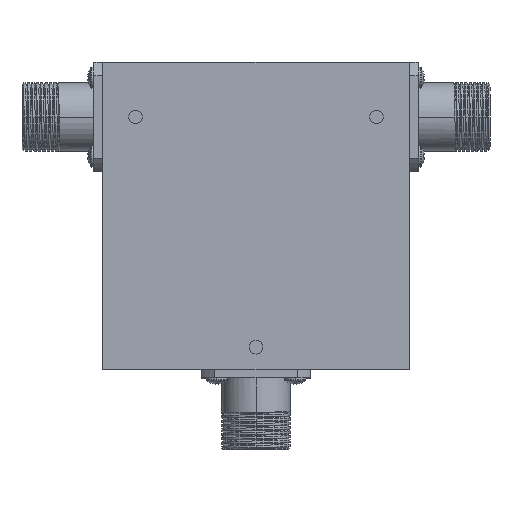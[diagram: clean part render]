
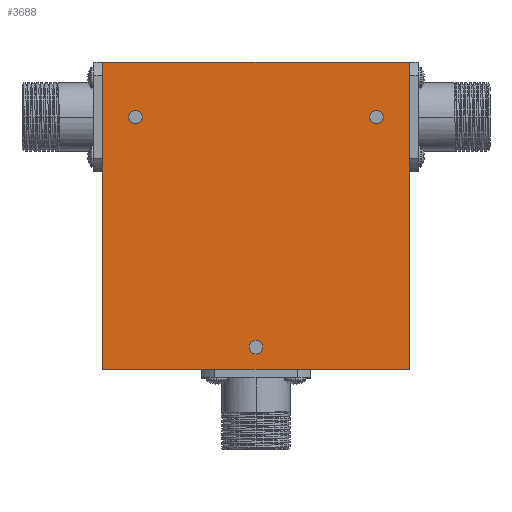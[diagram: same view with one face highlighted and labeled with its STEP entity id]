
A CAD part, top view. The second image highlights one B-rep face of the part: STEP entity #3688.
In plain terms, the highlighted planar face has unit normal (0, 0, 1).
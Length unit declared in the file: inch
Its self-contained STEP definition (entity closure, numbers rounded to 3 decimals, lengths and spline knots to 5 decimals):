
#17 = DIRECTION ( 'NONE',  ( 0., 0., 1. ) ) ;
#45 = CIRCLE ( 'NONE', #3065, 0.0625 ) ;
#122 = EDGE_CURVE ( 'NONE', #1024, #1865, #1307, .T. ) ;
#124 = DIRECTION ( 'NONE',  ( 1., 0., 0. ) ) ;
#234 = VERTEX_POINT ( 'NONE', #2882 ) ;
#246 = CARTESIAN_POINT ( 'NONE',  ( 0., -1.2, 0.5 ) ) ;
#254 = VERTEX_POINT ( 'NONE', #3224 ) ;
#258 = EDGE_CURVE ( 'NONE', #1319, #4395, #4049, .T. ) ;
#352 = PLANE ( 'NONE',  #2940 ) ;
#383 = DIRECTION ( 'NONE',  ( 1., 0., 0. ) ) ;
#506 = EDGE_LOOP ( 'NONE', ( #2279, #3908, #4287, #3403 ) ) ;
#593 = DIRECTION ( 'NONE',  ( 0., 0., 1. ) ) ;
#633 = VECTOR ( 'NONE', #2000, 39.37008 ) ;
#675 = EDGE_CURVE ( 'NONE', #234, #3769, #45, .T. ) ;
#722 = EDGE_CURVE ( 'NONE', #1622, #254, #945, .T. ) ;
#823 = DIRECTION ( 'NONE',  ( 0., -1., 0. ) ) ;
#921 = CARTESIAN_POINT ( 'NONE',  ( -1.1, 0.9, 0.5 ) ) ;
#927 = DIRECTION ( 'NONE',  ( 1., 0., 0. ) ) ;
#945 = LINE ( 'NONE', #3679, #633 ) ;
#995 = AXIS2_PLACEMENT_3D ( 'NONE', #246, #593, #927 ) ;
#1016 = CARTESIAN_POINT ( 'NONE',  ( -1.4, -1.4, 0.5 ) ) ;
#1024 = VERTEX_POINT ( 'NONE', #4101 ) ;
#1102 = VECTOR ( 'NONE', #124, 39.37008 ) ;
#1197 = CIRCLE ( 'NONE', #2490, 0.0625 ) ;
#1245 = VECTOR ( 'NONE', #823, 39.37008 ) ;
#1250 = ORIENTED_EDGE ( 'NONE', *, *, #3362, .F. ) ;
#1307 = CIRCLE ( 'NONE', #1726, 0.0625 ) ;
#1319 = VERTEX_POINT ( 'NONE', #1016 ) ;
#1343 = CIRCLE ( 'NONE', #4298, 0.0625 ) ;
#1401 = VECTOR ( 'NONE', #1708, 39.37008 ) ;
#1539 = ORIENTED_EDGE ( 'NONE', *, *, #4428, .F. ) ;
#1551 = CARTESIAN_POINT ( 'NONE',  ( 0., -1.2, 0.5 ) ) ;
#1622 = VERTEX_POINT ( 'NONE', #4268 ) ;
#1708 = DIRECTION ( 'NONE',  ( 0., 1., 0. ) ) ;
#1726 = AXIS2_PLACEMENT_3D ( 'NONE', #3506, #3802, #2088 ) ;
#1743 = ORIENTED_EDGE ( 'NONE', *, *, #3007, .F. ) ;
#1781 = DIRECTION ( 'NONE',  ( 1., 0., 0. ) ) ;
#1847 = FACE_BOUND ( 'NONE', #2959, .T. ) ;
#1865 = VERTEX_POINT ( 'NONE', #2903 ) ;
#1934 = FACE_BOUND ( 'NONE', #2324, .T. ) ;
#2000 = DIRECTION ( 'NONE',  ( -1., 0., 0. ) ) ;
#2035 = CARTESIAN_POINT ( 'NONE',  ( -1.0375, 0.9, 0.5 ) ) ;
#2088 = DIRECTION ( 'NONE',  ( 1., 0., 0. ) ) ;
#2124 = VERTEX_POINT ( 'NONE', #3907 ) ;
#2129 = AXIS2_PLACEMENT_3D ( 'NONE', #1551, #2914, #4242 ) ;
#2144 = CIRCLE ( 'NONE', #995, 0.0625 ) ;
#2177 = EDGE_CURVE ( 'NONE', #254, #1319, #2255, .T. ) ;
#2225 = EDGE_LOOP ( 'NONE', ( #1743, #3414 ) ) ;
#2255 = LINE ( 'NONE', #4234, #1245 ) ;
#2279 = ORIENTED_EDGE ( 'NONE', *, *, #2424, .T. ) ;
#2288 = CARTESIAN_POINT ( 'NONE',  ( 1.4, -1.4, 0.5 ) ) ;
#2308 = DIRECTION ( 'NONE',  ( 0., 0., 1. ) ) ;
#2321 = DIRECTION ( 'NONE',  ( 1., 0., 0. ) ) ;
#2324 = EDGE_LOOP ( 'NONE', ( #1539, #2329 ) ) ;
#2329 = ORIENTED_EDGE ( 'NONE', *, *, #3162, .F. ) ;
#2348 = CARTESIAN_POINT ( 'NONE',  ( 0., 0., 0.5 ) ) ;
#2424 = EDGE_CURVE ( 'NONE', #4395, #1622, #3238, .T. ) ;
#2470 = DIRECTION ( 'NONE',  ( 0., 0., 1. ) ) ;
#2490 = AXIS2_PLACEMENT_3D ( 'NONE', #921, #4333, #2598 ) ;
#2598 = DIRECTION ( 'NONE',  ( 1., 0., 0. ) ) ;
#2838 = FACE_BOUND ( 'NONE', #2225, .T. ) ;
#2882 = CARTESIAN_POINT ( 'NONE',  ( -1.1625, 0.9, 0.5 ) ) ;
#2895 = FACE_OUTER_BOUND ( 'NONE', #506, .T. ) ;
#2903 = CARTESIAN_POINT ( 'NONE',  ( 1.1625, 0.9, 0.5 ) ) ;
#2914 = DIRECTION ( 'NONE',  ( 0., 0., 1. ) ) ;
#2940 = AXIS2_PLACEMENT_3D ( 'NONE', #2348, #17, #383 ) ;
#2959 = EDGE_LOOP ( 'NONE', ( #1250, #3043 ) ) ;
#3007 = EDGE_CURVE ( 'NONE', #1865, #1024, #1343, .T. ) ;
#3043 = ORIENTED_EDGE ( 'NONE', *, *, #675, .F. ) ;
#3065 = AXIS2_PLACEMENT_3D ( 'NONE', #4055, #2308, #2321 ) ;
#3162 = EDGE_CURVE ( 'NONE', #4322, #2124, #3983, .T. ) ;
#3224 = CARTESIAN_POINT ( 'NONE',  ( -1.4, 1.4, 0.5 ) ) ;
#3238 = LINE ( 'NONE', #3438, #1401 ) ;
#3362 = EDGE_CURVE ( 'NONE', #3769, #234, #1197, .T. ) ;
#3403 = ORIENTED_EDGE ( 'NONE', *, *, #258, .T. ) ;
#3414 = ORIENTED_EDGE ( 'NONE', *, *, #122, .F. ) ;
#3438 = CARTESIAN_POINT ( 'NONE',  ( 1.4, 1.4, 0.5 ) ) ;
#3506 = CARTESIAN_POINT ( 'NONE',  ( 1.1, 0.9, 0.5 ) ) ;
#3650 = CARTESIAN_POINT ( 'NONE',  ( -0.0625, -1.2, 0.5 ) ) ;
#3679 = CARTESIAN_POINT ( 'NONE',  ( -1.4, 1.4, 0.5 ) ) ;
#3688 = ADVANCED_FACE ( 'NONE', ( #2838, #1934, #1847, #2895 ), #352, .T. ) ;
#3769 = VERTEX_POINT ( 'NONE', #2035 ) ;
#3802 = DIRECTION ( 'NONE',  ( 0., 0., 1. ) ) ;
#3835 = CARTESIAN_POINT ( 'NONE',  ( 1.1, 0.9, 0.5 ) ) ;
#3907 = CARTESIAN_POINT ( 'NONE',  ( 0.0625, -1.2, 0.5 ) ) ;
#3908 = ORIENTED_EDGE ( 'NONE', *, *, #722, .T. ) ;
#3983 = CIRCLE ( 'NONE', #2129, 0.0625 ) ;
#4049 = LINE ( 'NONE', #4265, #1102 ) ;
#4055 = CARTESIAN_POINT ( 'NONE',  ( -1.1, 0.9, 0.5 ) ) ;
#4101 = CARTESIAN_POINT ( 'NONE',  ( 1.0375, 0.9, 0.5 ) ) ;
#4234 = CARTESIAN_POINT ( 'NONE',  ( -1.4, 1.4, 0.5 ) ) ;
#4242 = DIRECTION ( 'NONE',  ( 1., 0., 0. ) ) ;
#4265 = CARTESIAN_POINT ( 'NONE',  ( -1.4, -1.4, 0.5 ) ) ;
#4268 = CARTESIAN_POINT ( 'NONE',  ( 1.4, 1.4, 0.5 ) ) ;
#4287 = ORIENTED_EDGE ( 'NONE', *, *, #2177, .T. ) ;
#4298 = AXIS2_PLACEMENT_3D ( 'NONE', #3835, #2470, #1781 ) ;
#4322 = VERTEX_POINT ( 'NONE', #3650 ) ;
#4333 = DIRECTION ( 'NONE',  ( 0., 0., 1. ) ) ;
#4395 = VERTEX_POINT ( 'NONE', #2288 ) ;
#4428 = EDGE_CURVE ( 'NONE', #2124, #4322, #2144, .T. ) ;
